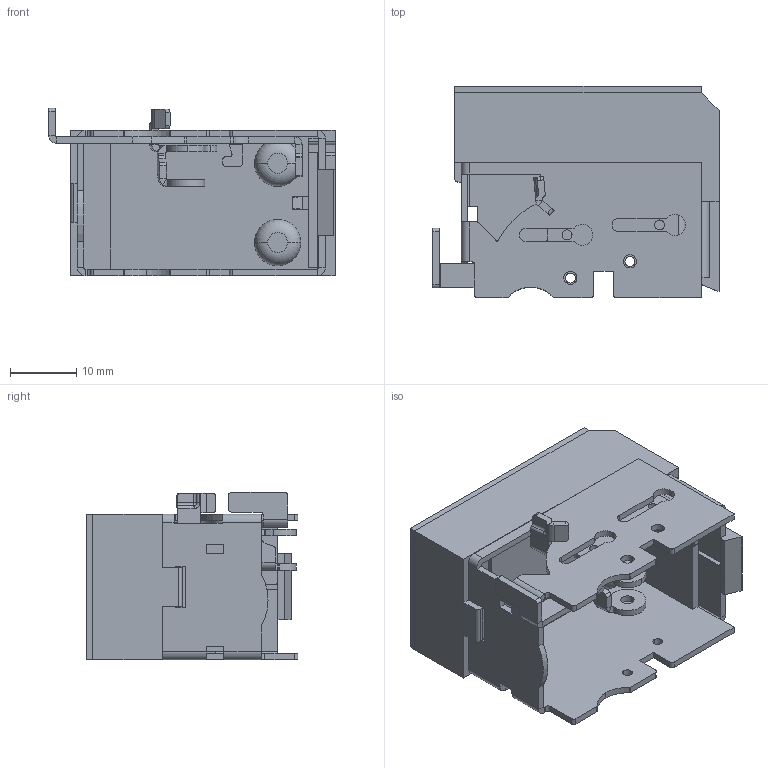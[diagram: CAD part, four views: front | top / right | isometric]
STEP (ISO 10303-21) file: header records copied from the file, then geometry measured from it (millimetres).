
FILE_DESCRIPTION (( 'STEP AP203' ), '1' );
FILE_NAME ('M5-125 160 250 分励 欠压.STEP', '2024-09-26T05:32:11', ( 'A' ), ( '' ), 'SwSTEP 2.0', 'SolidWorks 2018', '' );
FILE_SCHEMA (( 'CONFIG_CONTROL_DESIGN' ));
Length unit declared in the file: millimetre
Products named in the file (16): 8LD.946.1001; 5LD.850.1002; 5LD.239.1014; 6LD.374.1119; 8LD.953.1002; 8LD.300.1022; 8LD.900.1000_GB_CROSS_SCREWS_TYPE2 M3X4-4  Z type-N; 8LD.588.1001; 8LD.043.1217; 8LD.325.1030; M5-125 160 250 分励 欠压_·_1__¤_1; 5LD.615.1028; 8LD.315.1016; 5LD.235.1022; 8LD.235.1106; 8LD.559.1108
Assembly tree (18 placements, depth 5):
  M5-125 160 250 分励 欠压_·_1__¤_1
    5LD.615.1028
      5LD.239.1014
        8LD.043.1217
        8LD.325.1030
        5LD.235.1022
          8LD.235.1106
    8LD.946.1001  x2
    6LD.374.1119
      8LD.559.1108
      8LD.588.1001  x2
    5LD.850.1002  x2
      8LD.900.1000_GB_CROSS_SCREWS_TYPE2 M3X4-4  Z type-N
      8LD.953.1002
    8LD.300.1022
    8LD.315.1016
Bounding box: 43.3 x 32 x 25.3 mm (x, y, z)
Volume: 7354 mm3; surface area: 15936.6 mm2
Topology: 14 solids, 14 shells, 861 faces, 2293 edges, 1446 vertices
Faces by surface type: plane 488, cylinder 283, sphere 33, cone 20, torus 19, bspline 18
Entity records: 23229 total; most frequent: CARTESIAN_POINT 4124, DIRECTION 3647, ORIENTED_EDGE 3638, EDGE_CURVE 1819, VECTOR 1269, LINE 1269, AXIS2_PLACEMENT_3D 1189, VERTEX_POINT 1158
